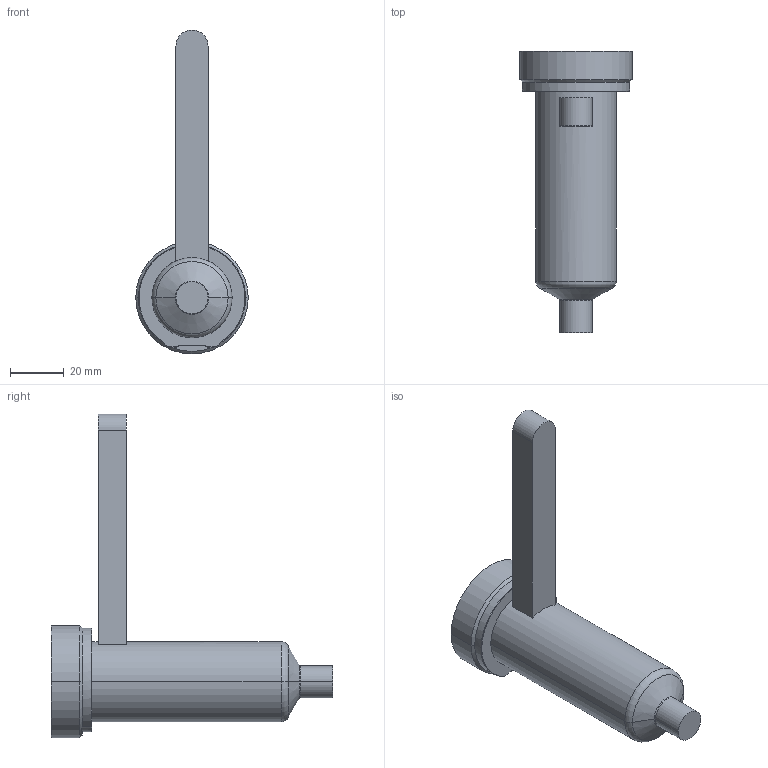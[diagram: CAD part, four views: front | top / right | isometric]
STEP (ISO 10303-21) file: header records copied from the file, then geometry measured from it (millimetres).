
FILE_DESCRIPTION((''),'2;1');
FILE_NAME('EO08_PG-FBE_STD_080_COT','2024-02-19T11:54:11',('sundharh'),(''),'CREO PARAMETRIC BY PTC INC, 2023154','CREO PARAMETRIC BY PTC INC, 2023154','');
FILE_SCHEMA(('CONFIG_CONTROL_DESIGN'));
Length unit declared in the file: millimetre
Products named in the file (1): EO08_PG-FBE_STD_080_COT
Bounding box: 42 x 105 x 121 mm (x, y, z)
Volume: 85313 mm3; surface area: 15767.3 mm2
Topology: 1 solids, 1 shells, 31 faces, 67 edges, 40 vertices
Faces by surface type: cylinder 11, plane 9, torus 7, cone 4
Entity records: 951 total; most frequent: CARTESIAN_POINT 218, DIRECTION 159, ORIENTED_EDGE 134, AXIS2_PLACEMENT_3D 67, EDGE_CURVE 67, VERTEX_POINT 40, CIRCLE 36, EDGE_LOOP 33
